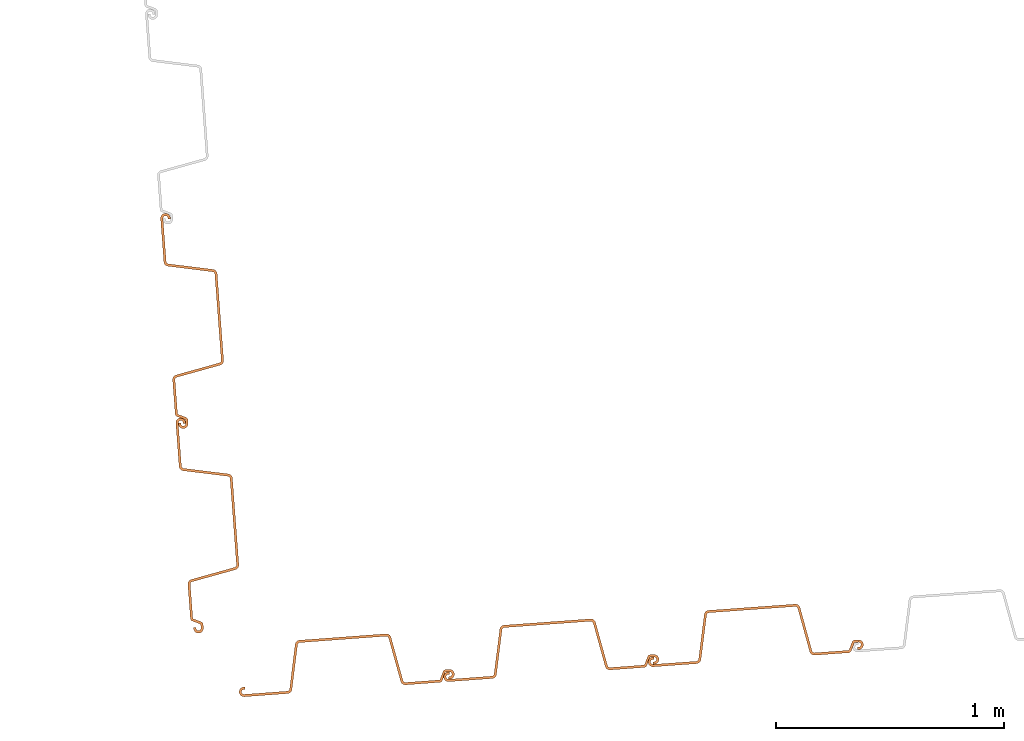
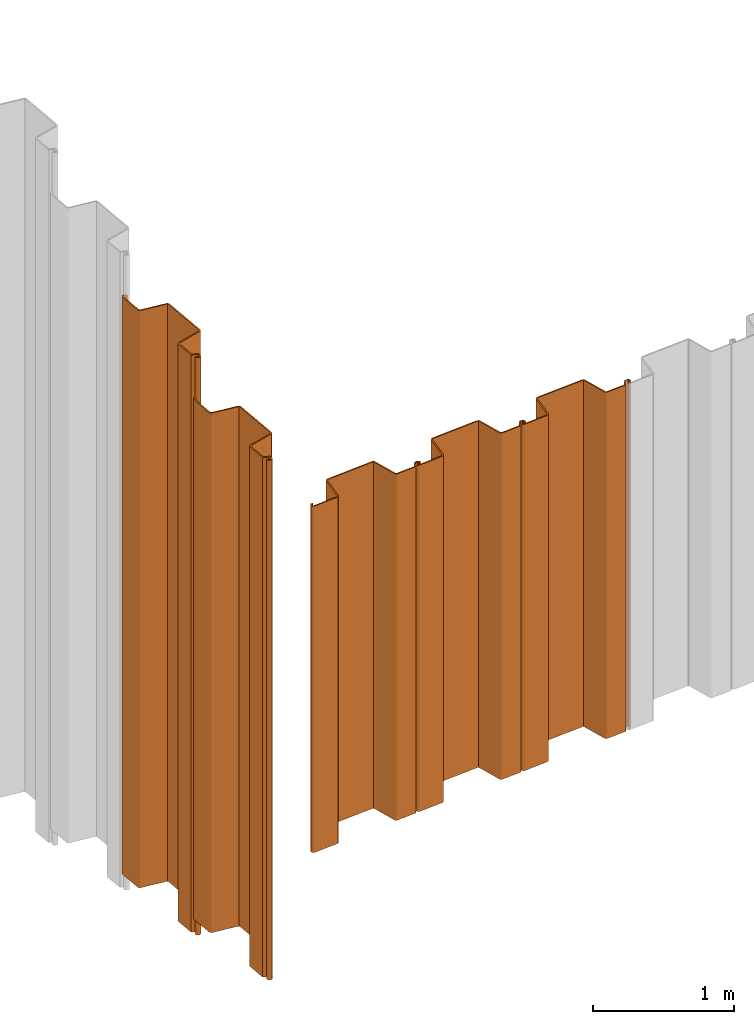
# One storey, part 1 of 12: 5 proxies.
"""IFC2X3 building model written with IfcOpenShell, lengths in millimetres."""

import ifcopenshell
import ifcopenshell.guid

model = None  # the IFC model being written
_history = None  # IfcOwnerHistory: only IFC2X3 demands one
_inside = {}  # id of a spatial element -> (the spatial element, [elements in it])
_under = {}  # id of a project, library or spatial element -> (it, [spatial elements below it])
_declared = {}  # id of a project -> (the project, [libraries it declares])
_typed = {}  # id of a type object -> (the type object, [elements of that type])
_made_of = {}  # id of a material, layer set ... -> (it, [elements and type objects made of it])


def new_model(schema):
    """Start an empty IFC model of exactly this schema.

    Asked for "IFC4X3", IfcOpenShell would pick the latest addendum, in which some entities
    have other attributes; the version numbers below select the first issue.
    IFC2X3 requires an IfcOwnerHistory on every rooted entity: one is made here for all.
    """
    global model, _history
    if schema == "IFC4X3":
        model = ifcopenshell.file(schema_version=(4, 3, 0, 0))
    else:
        model = ifcopenshell.file(schema=schema)
    _inside.clear()
    _under.clear()
    _declared.clear()
    _typed.clear()
    _made_of.clear()
    _history = None
    if model.schema == "IFC2X3":
        org = make("IfcOrganization", Name="unknown")
        user = make(
            "IfcPersonAndOrganization",
            ThePerson=make("IfcPerson", FamilyName="unknown"),
            TheOrganization=org,
        )
        app = make(
            "IfcApplication",
            ApplicationDeveloper=org,
            Version="unknown",
            ApplicationFullName="unknown",
            ApplicationIdentifier="unknown",
        )
        _history = make(
            "IfcOwnerHistory",
            OwningUser=user,
            OwningApplication=app,
            ChangeAction="ADDED",
            CreationDate=0,
        )
    return model


def make(cls, **values):
    """One entity of the class cls with the attributes given. An attribute that is None is left unset."""
    return model.create_entity(
        cls, **{name: value for name, value in values.items() if value is not None}
    )


def entity(cls, *values):
    """Any entity or typed value of the class cls, its attributes in the order of the schema. None: left unset."""
    e = model.create_entity(cls)
    for i, value in enumerate(values):
        if value is not None:
            e[i] = value
    return e


def rooted(cls, **values):
    """An entity with a GlobalId (a new one), such as an element, a storey or a relation."""
    return make(cls, GlobalId=ifcopenshell.guid.new(), OwnerHistory=_history, **values)


def si_unit(unit_type, name, prefix=None):
    """IfcSIUnit, for example si_unit("LENGTHUNIT", "METRE", prefix="MILLI")."""
    return make("IfcSIUnit", UnitType=unit_type, Prefix=prefix, Name=name)


def converted_unit(unit_type, name, factor, base, dimensions=None, offset=None):
    """IfcConversionBasedUnit, such as the inch: factor (a typed value) times the base unit."""
    return make(
        "IfcConversionBasedUnit"
        if offset is None
        else "IfcConversionBasedUnitWithOffset",
        ConversionOffset=offset,
        Dimensions=None
        if dimensions is None
        else entity("IfcDimensionalExponents", *dimensions),
        UnitType=unit_type,
        Name=name,
        ConversionFactor=make(
            "IfcMeasureWithUnit", ValueComponent=factor, UnitComponent=base
        ),
    )


def derived_unit(unit_type, elements):
    """IfcDerivedUnit: a product of units, each with its exponent."""
    return make(
        "IfcDerivedUnit",
        Elements=[
            make("IfcDerivedUnitElement", Unit=unit, Exponent=power)
            for unit, power in elements
        ],
        UnitType=unit_type,
    )


def assignment(units):
    """IfcUnitAssignment: the units of a project."""
    return None if units is None else make("IfcUnitAssignment", Units=units)


def point(xyz):
    """IfcCartesianPoint."""
    return None if xyz is None else make("IfcCartesianPoint", Coordinates=xyz)


def direction(xyz):
    """IfcDirection."""
    return None if xyz is None else make("IfcDirection", DirectionRatios=xyz)


def frame(location, z_axis=None, x_axis=None):
    """IfcAxis2Placement3D, a coordinate frame: its origin and axes. An axis left out is left unset."""
    return make(
        "IfcAxis2Placement3D",
        Location=point(location),
        Axis=direction(z_axis),
        RefDirection=direction(x_axis),
    )


def frame_2d(location, x_axis=None):
    """IfcAxis2Placement2D, a coordinate frame in the plane: its origin and x axis."""
    return make(
        "IfcAxis2Placement2D", Location=point(location), RefDirection=direction(x_axis)
    )


def origin():
    """The frame at (0, 0, 0) with its axes left unset."""
    return frame((0.0, 0.0, 0.0))


def place(relative_to, where):
    """IfcLocalPlacement: puts the frame where relative to a parent placement (None: the world)."""
    return make(
        "IfcLocalPlacement", PlacementRelTo=relative_to, RelativePlacement=where
    )


def context(
    kind, dimensions, precision=None, world=None, true_north=None, identifier=None
):
    """IfcGeometricRepresentationContext, for example the 3D "Model" context."""
    return make(
        "IfcGeometricRepresentationContext",
        ContextIdentifier=identifier,
        ContextType=kind,
        CoordinateSpaceDimension=dimensions,
        Precision=precision,
        WorldCoordinateSystem=world,
        TrueNorth=true_north,
    )


def subcontext(parent, identifier, kind, view, scale=None):
    """IfcGeometricRepresentationSubContext, for example "Body" below "Model"."""
    return make(
        "IfcGeometricRepresentationSubContext",
        ContextIdentifier=identifier,
        ContextType=kind,
        ParentContext=parent,
        TargetScale=scale,
        TargetView=view,
    )


def project(units=None, contexts=None):
    """IfcProject with its units and contexts."""
    return rooted(
        "IfcProject",
        Name="project",
        RepresentationContexts=contexts,
        UnitsInContext=assignment(units),
    )


def spatial(cls, under=None, at=None, **own):
    """A site, building, storey or space (cls), placed at a placement, below another one or the project."""
    s = rooted(cls, ObjectPlacement=at, **own)
    if under is not None:
        _under.setdefault(under.id(), (under, []))[1].append(s)
    return s


def polyline(points):
    """IfcPolyline through the points."""
    return make("IfcPolyline", Points=[point(p) for p in points])


def circle_curve(where, radius):
    """IfcCircle in the frame where."""
    return make("IfcCircle", Position=where, Radius=radius)


def parameter(value):
    """IfcParameterValue: where a trimmed curve begins or ends, as a parameter of its basis curve."""
    return model.create_entity("IfcParameterValue", value)


def trimmed(basis, trim1, trim2, sense, master):
    """IfcTrimmedCurve: the piece of a basis curve between two trims."""
    return make(
        "IfcTrimmedCurve",
        BasisCurve=basis,
        Trim1=trim1,
        Trim2=trim2,
        SenseAgreement=sense,
        MasterRepresentation=master,
    )


def segment(curve, same_sense, transition):
    """IfcCompositeCurveSegment."""
    return make(
        "IfcCompositeCurveSegment",
        Transition=transition,
        SameSense=same_sense,
        ParentCurve=curve,
    )


def composite_curve(segments, self_intersect=None):
    """IfcCompositeCurve: segments joined end to end."""
    return make("IfcCompositeCurve", Segments=segments, SelfIntersect=self_intersect)


def outline(outer, holes=None, kind="AREA"):
    """IfcArbitraryClosedProfileDef: a profile drawn as a closed curve; with holes, ...WithVoids."""
    if holes is None:
        return make("IfcArbitraryClosedProfileDef", ProfileType=kind, OuterCurve=outer)
    return make(
        "IfcArbitraryProfileDefWithVoids",
        ProfileType=kind,
        OuterCurve=outer,
        InnerCurves=holes,
    )


def extrude(swept, where, along, depth):
    """IfcExtrudedAreaSolid: the profile swept, set in the frame where, extruded along a direction by depth."""
    return make(
        "IfcExtrudedAreaSolid",
        SweptArea=swept,
        Position=where,
        ExtrudedDirection=direction(along),
        Depth=depth,
    )


def shape(context_of_items, identifier, shape_type, items):
    """IfcShapeRepresentation: the items that make up one representation, for example the "Body"."""
    return make(
        "IfcShapeRepresentation",
        ContextOfItems=context_of_items,
        RepresentationIdentifier=identifier,
        RepresentationType=shape_type,
        Items=items,
    )


def source(mapping_origin, context_of_items, identifier, shape_type, items):
    """IfcRepresentationMap: a shape defined once, which mapped items show again and again."""
    return make(
        "IfcRepresentationMap",
        MappingOrigin=mapping_origin,
        MappedRepresentation=shape(context_of_items, identifier, shape_type, items),
    )


def transform(
    local_origin,
    x_axis=None,
    y_axis=None,
    z_axis=None,
    scale=None,
    scale2=None,
    scale3=None,
    uniform=True,
):
    """IfcCartesianTransformationOperator3D, or its non-uniform kind. x_axis, y_axis, z_axis: its Axis1, 2, 3."""
    if uniform:
        return make(
            "IfcCartesianTransformationOperator3D",
            Axis1=direction(x_axis),
            Axis2=direction(y_axis),
            LocalOrigin=point(local_origin),
            Scale=scale,
            Axis3=direction(z_axis),
        )
    return make(
        "IfcCartesianTransformationOperator3DnonUniform",
        Axis1=direction(x_axis),
        Axis2=direction(y_axis),
        LocalOrigin=point(local_origin),
        Scale=scale,
        Axis3=direction(z_axis),
        Scale2=scale2,
        Scale3=scale3,
    )


def mapped(mapping_source, mapping_target):
    """IfcMappedItem: shows the shape of a source again, moved by a transform."""
    return make(
        "IfcMappedItem", MappingSource=mapping_source, MappingTarget=mapping_target
    )


def material(Name=None, Category=None):
    """IfcMaterial."""
    return make("IfcMaterial", Name=Name, Category=Category)


def made_of(thing, what):
    """Note that an element or type object is made of a material, layer set ...; save() writes the relation."""
    if what is not None:
        _made_of.setdefault(what.id(), (what, []))[1].append(thing)
    return thing


def type_object(cls, material=None, **own):
    """A type object (cls), such as IfcWallType, which elements share."""
    return made_of(rooted(cls, **own), material)


def type_shapes(of_type, sources):
    """Give a type object the sources (RepresentationMaps) that its elements show as mapped items."""
    of_type.RepresentationMaps = sources


def element(
    cls,
    number,
    at=None,
    inside=None,
    cuts=None,
    type_object=None,
    material=None,
    context=None,
    identifier="Body",
    shape_type=None,
    held_by="IfcProductDefinitionShape",
    body=None,
    shapes=None,
    **own,
):
    """One element of the class cls, such as IfcWall. Its Tag is "e" and its number.

    at: its placement. inside: the storey or other place that contains it. cuts: it is an
    opening in that element (IfcRelVoidsElement). A single representation is given by context,
    identifier, shape_type and body (its items); several are given by shapes. held_by: the class
    of the entity that holds the representations. save() writes the other relations.
    """
    e = rooted(cls, Tag="e%d" % number, ObjectPlacement=at, **own)
    if body is not None:
        shapes = [shape(context, identifier, shape_type, body)]
    if shapes is not None:
        e.Representation = make(held_by, Representations=shapes)
    if inside is not None:
        _inside.setdefault(inside.id(), (inside, []))[1].append(e)
    if cuts is not None:
        rooted(
            "IfcRelVoidsElement", RelatingBuildingElement=cuts, RelatedOpeningElement=e
        )
    if type_object is not None:
        _typed.setdefault(type_object.id(), (type_object, []))[1].append(e)
    return made_of(e, material)


def aggregate(whole, parts):
    """IfcRelAggregates: a whole, such as a stair, and the parts it consists of."""
    return rooted("IfcRelAggregates", RelatingObject=whole, RelatedObjects=parts)


def save(model, path):
    """Write the relations noted so far, then the file.

    IfcRelAggregates (storeys below a building ...), IfcRelContainedInSpatialStructure (elements
    in a storey), IfcRelDefinesByType, IfcRelAssociatesMaterial and IfcRelDeclares: one each for
    every whole, place, type object, material and project.
    """
    for whole, parts in _under.values():
        aggregate(whole, parts)
    for where, things in _inside.values():
        rooted(
            "IfcRelContainedInSpatialStructure",
            RelatedElements=things,
            RelatingStructure=where,
        )
    for kind, things in _typed.values():
        rooted("IfcRelDefinesByType", RelatedObjects=things, RelatingType=kind)
    for what, things in _made_of.values():
        rooted("IfcRelAssociatesMaterial", RelatedObjects=things, RelatingMaterial=what)
    for by, libraries in _declared.values():
        rooted("IfcRelDeclares", RelatingContext=by, RelatedDefinitions=libraries)
    model.write(path)


model = new_model("IFC2X3")

# Units and contexts
model_context = context("Model", 3, precision=0.01, world=origin(), true_north=direction((6.12303176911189e-17, 1.0)))
body_context = subcontext(model_context, "Body", "Model", "MODEL_VIEW")
ifc_project = project(units=[si_unit("LENGTHUNIT", "METRE", prefix="MILLI"), si_unit("AREAUNIT", "SQUARE_METRE"), si_unit("VOLUMEUNIT", "CUBIC_METRE"), converted_unit("PLANEANGLEUNIT", "DEGREE", entity("IfcRatioMeasure", 0.0174532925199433), si_unit("PLANEANGLEUNIT", "RADIAN"), dimensions=[0, 0, 0, 0, 0, 0, 0]), si_unit("MASSUNIT", "GRAM", prefix="KILO"), derived_unit("MASSDENSITYUNIT", [(si_unit("MASSUNIT", "GRAM", prefix="KILO"), 1), (si_unit("LENGTHUNIT", "METRE"), -3)]), derived_unit("MOMENTOFINERTIAUNIT", [(si_unit("LENGTHUNIT", "METRE"), 4)]), si_unit("TIMEUNIT", "SECOND"), si_unit("FREQUENCYUNIT", "HERTZ"), si_unit("THERMODYNAMICTEMPERATUREUNIT", "DEGREE_CELSIUS"), derived_unit("THERMALTRANSMITTANCEUNIT", [(si_unit("MASSUNIT", "GRAM", prefix="KILO"), 1), (si_unit("THERMODYNAMICTEMPERATUREUNIT", "KELVIN"), -1), (si_unit("TIMEUNIT", "SECOND"), -3)]), derived_unit("VOLUMETRICFLOWRATEUNIT", [(si_unit("LENGTHUNIT", "METRE"), 3), (si_unit("TIMEUNIT", "SECOND"), -1)]), si_unit("ELECTRICCURRENTUNIT", "AMPERE"), si_unit("ELECTRICVOLTAGEUNIT", "VOLT"), si_unit("POWERUNIT", "WATT"), si_unit("FORCEUNIT", "NEWTON", prefix="KILO"), si_unit("ILLUMINANCEUNIT", "LUX"), si_unit("LUMINOUSFLUXUNIT", "LUMEN"), si_unit("LUMINOUSINTENSITYUNIT", "CANDELA"), derived_unit("USERDEFINED", [(si_unit("MASSUNIT", "GRAM", prefix="KILO"), -1), (si_unit("LENGTHUNIT", "METRE"), -2), (si_unit("TIMEUNIT", "SECOND"), 3), (si_unit("LUMINOUSFLUXUNIT", "LUMEN"), 1)]), derived_unit("LINEARVELOCITYUNIT", [(si_unit("LENGTHUNIT", "METRE"), 1), (si_unit("TIMEUNIT", "SECOND"), -1)]), si_unit("PRESSUREUNIT", "PASCAL"), derived_unit("USERDEFINED", [(si_unit("LENGTHUNIT", "METRE"), -2), (si_unit("MASSUNIT", "GRAM", prefix="KILO"), 1), (si_unit("TIMEUNIT", "SECOND"), -2)]), derived_unit("LINEARFORCEUNIT", [(si_unit("MASSUNIT", "GRAM", prefix="KILO"), 1), (si_unit("LENGTHUNIT", "METRE"), 1), (si_unit("TIMEUNIT", "SECOND"), -2), (si_unit("LENGTHUNIT", "METRE"), -1)]), derived_unit("PLANARFORCEUNIT", [(si_unit("MASSUNIT", "GRAM", prefix="KILO"), 1), (si_unit("LENGTHUNIT", "METRE"), 1), (si_unit("TIMEUNIT", "SECOND"), -2), (si_unit("LENGTHUNIT", "METRE"), -2)])], contexts=[model_context])

# Site, building, storey
site_placement = place(None, origin())
site = spatial("IfcSite", under=ifc_project, at=site_placement, Name="Default", CompositionType="ELEMENT")
building_placement = place(site_placement, origin())
building = spatial("IfcBuilding", under=site, at=building_placement, CompositionType="ELEMENT")
storey_placement = place(building_placement, frame((0.0, 0.0, 10600.0)))
storey = spatial("IfcBuildingStorey", under=building, at=storey_placement, Name="AP+10.600", CompositionType="ELEMENT", Elevation=10600.0)

# Proxies
ifc_material = material(Name="<Unnamed>")
building_element_proxy_type_1 = type_object("IfcBuildingElementProxyType", Name="鋼矢板10H型:鋼矢板10H型", PredefinedType="NOTDEFINED", material=ifc_material)
shared_shape_1 = source(origin(), body_context, "Body", "SweptSolid", [
    extrude(outline(composite_curve([segment(trimmed(circle_curve(frame_2d((85.3662976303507, 306.644432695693), x_axis=(0.422618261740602, 0.906307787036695)), 13.885714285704), [parameter(24.9999999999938)], [parameter(90.0000000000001)], True, "PARAMETER"), True, "CONTINUOUS"), segment(polyline([(72.7815666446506, 312.512789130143), (9.8129512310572, 177.476157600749)]), True, "CONTINUOUS"), segment(trimmed(circle_curve(frame_2d((29.3891994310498, 168.347603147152), x_axis=(0.422618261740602, 0.906307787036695)), 21.6), [parameter(90.0000000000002)], [parameter(168.69006752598)], True, "PARAMETER"), True, "CONTINUOUS"), segment(polyline([(16.598697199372, 150.941769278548), (175.329723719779, 34.2998683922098)]), True, "CONTINUOUS"), segment(trimmed(circle_curve(frame_2d((168.93447260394, 25.596951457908), x_axis=(0.422618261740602, 0.906307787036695)), 10.7999999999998), [parameter(270.0)], [parameter(348.690067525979)], True, "PARAMETER"), False, "CONTINUOUS"), segment(polyline([(178.722596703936, 21.0326742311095), (18.2974003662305, -323.000269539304)]), True, "CONTINUOUS"), segment(trimmed(circle_curve(frame_2d((8.50927626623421, -318.435992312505), x_axis=(0.422618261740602, 0.906307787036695)), 10.8), [parameter(191.30993247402)], [parameter(269.999999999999)], True, "PARAMETER"), False, "CONTINUOUS"), segment(polyline([(5.95324328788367, -328.929166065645), (-185.429973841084, -282.310113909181)]), True, "CONTINUOUS"), segment(trimmed(circle_curve(frame_2d((-190.542039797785, -303.296461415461), x_axis=(0.422618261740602, 0.906307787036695)), 21.6000000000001), [parameter(11.3099324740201)], [parameter(90.0000000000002)], True, "PARAMETER"), True, "CONTINUOUS"), segment(polyline([(-210.118287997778, -294.167906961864), (-290.330886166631, -466.184378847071)]), True, "CONTINUOUS"), segment(trimmed(circle_curve(frame_2d((-270.754637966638, -475.312933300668), x_axis=(0.422618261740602, 0.906307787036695)), 21.6), [parameter(90.0000000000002)], [parameter(269.999999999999)], True, "PARAMETER"), True, "CONTINUOUS"), segment(polyline([(-251.178389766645, -484.441487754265), (-249.065298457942, -479.909948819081)]), True, "CONTINUOUS"), segment(polyline([(-249.065298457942, -479.909948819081), (-258.853422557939, -475.345671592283)]), True, "CONTINUOUS"), segment(polyline([(-258.853422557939, -475.345671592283), (-260.966513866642, -479.877210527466)]), True, "CONTINUOUS"), segment(trimmed(circle_curve(frame_2d((-270.754637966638, -475.312933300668), x_axis=(0.422618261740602, 0.906307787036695)), 10.8), [parameter(90.0000000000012)], [parameter(270.0)], True, "PARAMETER"), False, "CONTINUOUS"), segment(polyline([(-280.542762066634, -470.748656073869), (-200.330163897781, -298.732184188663)]), True, "CONTINUOUS"), segment(trimmed(circle_curve(frame_2d((-190.542039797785, -303.296461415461), x_axis=(0.422618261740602, 0.906307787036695)), 10.8), [parameter(11.3099324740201)], [parameter(89.9999999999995)], True, "PARAMETER"), False, "CONTINUOUS"), segment(polyline([(-187.986006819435, -292.803287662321), (3.39721030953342, -339.422339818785)]), True, "CONTINUOUS"), segment(trimmed(circle_curve(frame_2d((8.50927626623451, -318.435992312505), x_axis=(0.422618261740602, 0.906307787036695)), 21.6), [parameter(191.30993247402)], [parameter(270.0)], True, "PARAMETER"), True, "CONTINUOUS"), segment(polyline([(28.0855244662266, -327.564546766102), (188.510720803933, 16.4683970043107)]), True, "CONTINUOUS"), segment(trimmed(circle_curve(frame_2d((168.93447260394, 25.5969514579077), x_axis=(0.422618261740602, 0.906307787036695)), 21.6), [parameter(270.0)], [parameter(348.69006752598)], True, "PARAMETER"), True, "CONTINUOUS"), segment(polyline([(181.724974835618, 43.0027853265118), (22.9939483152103, 159.644686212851)]), True, "CONTINUOUS"), segment(trimmed(circle_curve(frame_2d((29.3891994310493, 168.347603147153), x_axis=(0.422618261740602, 0.906307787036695)), 10.7999999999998), [parameter(89.9999999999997)], [parameter(168.690067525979)], True, "PARAMETER"), False, "CONTINUOUS"), segment(polyline([(19.6010753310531, 172.911880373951), (82.5696907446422, 307.948511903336)]), True, "CONTINUOUS"), segment(trimmed(circle_curve(frame_2d((85.3662976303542, 306.64443269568), x_axis=(0.422618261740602, 0.906307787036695)), 3.08571428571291), [parameter(25.0000000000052)], [parameter(90.0000000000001)], True, "PARAMETER"), False, "CONTINUOUS"), segment(polyline([(85.3662976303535, 309.730146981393), (122.220231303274, 309.730146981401)]), True, "CONTINUOUS"), segment(trimmed(circle_curve(frame_2d((122.220231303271, 323.615861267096), x_axis=(0.422618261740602, 0.906307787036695)), 13.8857142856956), [parameter(205.000000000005)], [parameter(270.0)], True, "PARAMETER"), True, "CONTINUOUS"), segment(polyline([(134.804962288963, 317.747504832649), (141.079261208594, 331.202782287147)]), True, "CONTINUOUS"), segment(trimmed(circle_curve(frame_2d((121.503013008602, 340.331336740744), x_axis=(0.422618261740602, 0.906307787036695)), 21.6), [parameter(270.0)], [parameter(90.0000000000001)], True, "PARAMETER"), True, "CONTINUOUS"), segment(polyline([(101.926764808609, 349.459891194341), (99.8136734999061, 344.928352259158)]), True, "CONTINUOUS"), segment(polyline([(99.8136734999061, 344.928352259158), (109.601797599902, 340.364075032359)]), True, "CONTINUOUS"), segment(polyline([(109.601797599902, 340.364075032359), (111.714888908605, 344.895613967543)]), True, "CONTINUOUS"), segment(trimmed(circle_curve(frame_2d((121.503013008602, 340.331336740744), x_axis=(0.422618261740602, 0.906307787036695)), 10.8), [parameter(270.0)], [parameter(89.9999999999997)], True, "PARAMETER"), False, "CONTINUOUS"), segment(polyline([(131.291137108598, 335.767059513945), (125.01683818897, 322.311782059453)]), True, "CONTINUOUS"), segment(trimmed(circle_curve(frame_2d((122.220231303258, 323.615861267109), x_axis=(0.422618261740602, 0.906307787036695)), 3.08571428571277), [parameter(204.999999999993)], [parameter(270.0)], True, "PARAMETER"), False, "CONTINUOUS"), segment(polyline([(122.220231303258, 320.530146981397), (85.3662976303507, 320.530146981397)]), True, "CONTINUOUS")], self_intersect=False)), frame((95.205667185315, -48.8888888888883, -3000.0), z_axis=(0.0, 0.0, -1.0), x_axis=(0.4226182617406, 0.906307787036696, 0.0)), (0.0, 0.0, -1.0), 3000.0),
])
type_shapes(building_element_proxy_type_1, [shared_shape_1])
for number, where, z_axis, x_axis in (
    (1, (-86202.3274578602, -17983.886758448, -650.0), (0.0, 0.0, 1.0), (0.997426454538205, 0.0716970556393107, 0.0)),
    (2, (-87099.9808708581, -18048.8243395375, -650.0), (0.0, 0.0, 1.0), (0.997360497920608, 0.0726087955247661, 0.0)),
    (3, (-87997.5746948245, -18114.582469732, -650.0), (0.0, 0.0, 1.0), (0.997293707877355, 0.0735204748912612, 0.0)),
):
    element("IfcBuildingElementProxy", number, at=place(storey_placement, frame(where, z_axis=z_axis, x_axis=x_axis)), inside=storey, type_object=building_element_proxy_type_1, material=ifc_material, Name="鋼矢板10H型:鋼矢板10H型", ObjectType="鋼矢板10H型:鋼矢板10H型", context=body_context, shape_type="MappedRepresentation", body=[
        mapped(shared_shape_1, transform((0.0, 0.0, 0.0), scale=1.0)),
    ])
building_element_proxy_type_2 = type_object("IfcBuildingElementProxyType", Name="鋼矢板10H型:鋼矢板10H型", PredefinedType="NOTDEFINED", material=ifc_material)
shared_shape_2 = source(origin(), body_context, "Body", "SweptSolid", [
    extrude(outline(composite_curve([segment(trimmed(circle_curve(frame_2d((85.3662976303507, 306.644432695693), x_axis=(0.422618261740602, 0.906307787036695)), 13.885714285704), [parameter(24.9999999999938)], [parameter(90.0000000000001)], True, "PARAMETER"), True, "CONTINUOUS"), segment(polyline([(72.7815666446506, 312.512789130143), (9.8129512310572, 177.476157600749)]), True, "CONTINUOUS"), segment(trimmed(circle_curve(frame_2d((29.3891994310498, 168.347603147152), x_axis=(0.422618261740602, 0.906307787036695)), 21.6), [parameter(90.0000000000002)], [parameter(168.69006752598)], True, "PARAMETER"), True, "CONTINUOUS"), segment(polyline([(16.598697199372, 150.941769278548), (175.329723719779, 34.2998683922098)]), True, "CONTINUOUS"), segment(trimmed(circle_curve(frame_2d((168.93447260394, 25.596951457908), x_axis=(0.422618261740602, 0.906307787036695)), 10.7999999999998), [parameter(270.0)], [parameter(348.690067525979)], True, "PARAMETER"), False, "CONTINUOUS"), segment(polyline([(178.722596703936, 21.0326742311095), (18.2974003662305, -323.000269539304)]), True, "CONTINUOUS"), segment(trimmed(circle_curve(frame_2d((8.50927626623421, -318.435992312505), x_axis=(0.422618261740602, 0.906307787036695)), 10.8), [parameter(191.30993247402)], [parameter(269.999999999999)], True, "PARAMETER"), False, "CONTINUOUS"), segment(polyline([(5.95324328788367, -328.929166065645), (-185.429973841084, -282.310113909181)]), True, "CONTINUOUS"), segment(trimmed(circle_curve(frame_2d((-190.542039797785, -303.296461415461), x_axis=(0.422618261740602, 0.906307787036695)), 21.6000000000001), [parameter(11.3099324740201)], [parameter(90.0000000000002)], True, "PARAMETER"), True, "CONTINUOUS"), segment(polyline([(-210.118287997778, -294.167906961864), (-290.330886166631, -466.184378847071)]), True, "CONTINUOUS"), segment(trimmed(circle_curve(frame_2d((-270.754637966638, -475.312933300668), x_axis=(0.422618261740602, 0.906307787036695)), 21.6), [parameter(90.0000000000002)], [parameter(269.999999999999)], True, "PARAMETER"), True, "CONTINUOUS"), segment(polyline([(-251.178389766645, -484.441487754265), (-249.065298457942, -479.909948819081)]), True, "CONTINUOUS"), segment(polyline([(-249.065298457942, -479.909948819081), (-258.853422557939, -475.345671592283)]), True, "CONTINUOUS"), segment(polyline([(-258.853422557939, -475.345671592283), (-260.966513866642, -479.877210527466)]), True, "CONTINUOUS"), segment(trimmed(circle_curve(frame_2d((-270.754637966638, -475.312933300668), x_axis=(0.422618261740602, 0.906307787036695)), 10.8), [parameter(90.0000000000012)], [parameter(270.0)], True, "PARAMETER"), False, "CONTINUOUS"), segment(polyline([(-280.542762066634, -470.748656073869), (-200.330163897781, -298.732184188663)]), True, "CONTINUOUS"), segment(trimmed(circle_curve(frame_2d((-190.542039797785, -303.296461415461), x_axis=(0.422618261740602, 0.906307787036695)), 10.8), [parameter(11.3099324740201)], [parameter(89.9999999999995)], True, "PARAMETER"), False, "CONTINUOUS"), segment(polyline([(-187.986006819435, -292.803287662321), (3.39721030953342, -339.422339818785)]), True, "CONTINUOUS"), segment(trimmed(circle_curve(frame_2d((8.50927626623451, -318.435992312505), x_axis=(0.422618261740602, 0.906307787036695)), 21.6), [parameter(191.30993247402)], [parameter(270.0)], True, "PARAMETER"), True, "CONTINUOUS"), segment(polyline([(28.0855244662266, -327.564546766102), (188.510720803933, 16.4683970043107)]), True, "CONTINUOUS"), segment(trimmed(circle_curve(frame_2d((168.93447260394, 25.5969514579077), x_axis=(0.422618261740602, 0.906307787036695)), 21.6), [parameter(270.0)], [parameter(348.69006752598)], True, "PARAMETER"), True, "CONTINUOUS"), segment(polyline([(181.724974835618, 43.0027853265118), (22.9939483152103, 159.644686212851)]), True, "CONTINUOUS"), segment(trimmed(circle_curve(frame_2d((29.3891994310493, 168.347603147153), x_axis=(0.422618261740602, 0.906307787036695)), 10.7999999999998), [parameter(89.9999999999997)], [parameter(168.690067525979)], True, "PARAMETER"), False, "CONTINUOUS"), segment(polyline([(19.6010753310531, 172.911880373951), (82.5696907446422, 307.948511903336)]), True, "CONTINUOUS"), segment(trimmed(circle_curve(frame_2d((85.3662976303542, 306.64443269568), x_axis=(0.422618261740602, 0.906307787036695)), 3.08571428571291), [parameter(25.0000000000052)], [parameter(90.0000000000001)], True, "PARAMETER"), False, "CONTINUOUS"), segment(polyline([(85.3662976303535, 309.730146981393), (122.220231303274, 309.730146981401)]), True, "CONTINUOUS"), segment(trimmed(circle_curve(frame_2d((122.220231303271, 323.615861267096), x_axis=(0.422618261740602, 0.906307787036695)), 13.8857142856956), [parameter(205.000000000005)], [parameter(270.0)], True, "PARAMETER"), True, "CONTINUOUS"), segment(polyline([(134.804962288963, 317.747504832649), (141.079261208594, 331.202782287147)]), True, "CONTINUOUS"), segment(trimmed(circle_curve(frame_2d((121.503013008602, 340.331336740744), x_axis=(0.422618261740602, 0.906307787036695)), 21.6), [parameter(270.0)], [parameter(90.0000000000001)], True, "PARAMETER"), True, "CONTINUOUS"), segment(polyline([(101.926764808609, 349.459891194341), (99.8136734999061, 344.928352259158)]), True, "CONTINUOUS"), segment(polyline([(99.8136734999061, 344.928352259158), (109.601797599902, 340.364075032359)]), True, "CONTINUOUS"), segment(polyline([(109.601797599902, 340.364075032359), (111.714888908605, 344.895613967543)]), True, "CONTINUOUS"), segment(trimmed(circle_curve(frame_2d((121.503013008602, 340.331336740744), x_axis=(0.422618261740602, 0.906307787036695)), 10.8), [parameter(270.0)], [parameter(89.9999999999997)], True, "PARAMETER"), False, "CONTINUOUS"), segment(polyline([(131.291137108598, 335.767059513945), (125.01683818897, 322.311782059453)]), True, "CONTINUOUS"), segment(trimmed(circle_curve(frame_2d((122.220231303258, 323.615861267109), x_axis=(0.422618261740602, 0.906307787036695)), 3.08571428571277), [parameter(204.999999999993)], [parameter(270.0)], True, "PARAMETER"), False, "CONTINUOUS"), segment(polyline([(122.220231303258, 320.530146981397), (85.3662976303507, 320.530146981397)]), True, "CONTINUOUS")], self_intersect=False)), frame((95.205667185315, -48.8888888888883, -4500.0), z_axis=(0.0, 0.0, -1.0), x_axis=(0.4226182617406, 0.906307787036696, 0.0)), (0.0, 0.0, -1.0), 4500.0),
])
type_shapes(building_element_proxy_type_2, [shared_shape_2])
proxy_1_placement = place(storey_placement, frame((-88590.7740043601, -17501.5840955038, -352.722315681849), z_axis=(0.0, 0.0, 1.0), x_axis=(0.0743258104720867, -0.997234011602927, 0.0)))
element("IfcBuildingElementProxy", 4, at=proxy_1_placement, inside=storey, type_object=building_element_proxy_type_2, material=ifc_material, Name="鋼矢板10H型:鋼矢板10H型", ObjectType="鋼矢板10H型:鋼矢板10H型", context=body_context, shape_type="MappedRepresentation", body=[
    mapped(shared_shape_2, transform((0.0, 0.0, 0.0), scale=1.0)),
])
building_element_proxy_type_3 = type_object("IfcBuildingElementProxyType", Name="鋼矢板10H型:鋼矢板10H型", PredefinedType="NOTDEFINED", material=ifc_material)
shared_shape_3 = source(origin(), body_context, "Body", "SweptSolid", [
    extrude(outline(composite_curve([segment(trimmed(circle_curve(frame_2d((85.3662976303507, 306.644432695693), x_axis=(0.422618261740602, 0.906307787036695)), 13.885714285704), [parameter(24.9999999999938)], [parameter(90.0000000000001)], True, "PARAMETER"), True, "CONTINUOUS"), segment(polyline([(72.7815666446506, 312.512789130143), (9.8129512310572, 177.476157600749)]), True, "CONTINUOUS"), segment(trimmed(circle_curve(frame_2d((29.3891994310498, 168.347603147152), x_axis=(0.422618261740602, 0.906307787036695)), 21.6), [parameter(90.0000000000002)], [parameter(168.69006752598)], True, "PARAMETER"), True, "CONTINUOUS"), segment(polyline([(16.598697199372, 150.941769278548), (175.329723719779, 34.2998683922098)]), True, "CONTINUOUS"), segment(trimmed(circle_curve(frame_2d((168.93447260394, 25.596951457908), x_axis=(0.422618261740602, 0.906307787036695)), 10.7999999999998), [parameter(270.0)], [parameter(348.690067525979)], True, "PARAMETER"), False, "CONTINUOUS"), segment(polyline([(178.722596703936, 21.0326742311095), (18.2974003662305, -323.000269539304)]), True, "CONTINUOUS"), segment(trimmed(circle_curve(frame_2d((8.50927626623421, -318.435992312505), x_axis=(0.422618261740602, 0.906307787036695)), 10.8), [parameter(191.30993247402)], [parameter(269.999999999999)], True, "PARAMETER"), False, "CONTINUOUS"), segment(polyline([(5.95324328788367, -328.929166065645), (-185.429973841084, -282.310113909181)]), True, "CONTINUOUS"), segment(trimmed(circle_curve(frame_2d((-190.542039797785, -303.296461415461), x_axis=(0.422618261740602, 0.906307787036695)), 21.6000000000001), [parameter(11.3099324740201)], [parameter(90.0000000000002)], True, "PARAMETER"), True, "CONTINUOUS"), segment(polyline([(-210.118287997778, -294.167906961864), (-290.330886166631, -466.184378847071)]), True, "CONTINUOUS"), segment(trimmed(circle_curve(frame_2d((-270.754637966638, -475.312933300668), x_axis=(0.422618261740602, 0.906307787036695)), 21.6), [parameter(90.0000000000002)], [parameter(269.999999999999)], True, "PARAMETER"), True, "CONTINUOUS"), segment(polyline([(-251.178389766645, -484.441487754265), (-249.065298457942, -479.909948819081)]), True, "CONTINUOUS"), segment(polyline([(-249.065298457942, -479.909948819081), (-258.853422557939, -475.345671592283)]), True, "CONTINUOUS"), segment(polyline([(-258.853422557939, -475.345671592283), (-260.966513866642, -479.877210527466)]), True, "CONTINUOUS"), segment(trimmed(circle_curve(frame_2d((-270.754637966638, -475.312933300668), x_axis=(0.422618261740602, 0.906307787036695)), 10.8), [parameter(90.0000000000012)], [parameter(270.0)], True, "PARAMETER"), False, "CONTINUOUS"), segment(polyline([(-280.542762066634, -470.748656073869), (-200.330163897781, -298.732184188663)]), True, "CONTINUOUS"), segment(trimmed(circle_curve(frame_2d((-190.542039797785, -303.296461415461), x_axis=(0.422618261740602, 0.906307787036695)), 10.8), [parameter(11.3099324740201)], [parameter(89.9999999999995)], True, "PARAMETER"), False, "CONTINUOUS"), segment(polyline([(-187.986006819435, -292.803287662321), (3.39721030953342, -339.422339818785)]), True, "CONTINUOUS"), segment(trimmed(circle_curve(frame_2d((8.50927626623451, -318.435992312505), x_axis=(0.422618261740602, 0.906307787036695)), 21.6), [parameter(191.30993247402)], [parameter(270.0)], True, "PARAMETER"), True, "CONTINUOUS"), segment(polyline([(28.0855244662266, -327.564546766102), (188.510720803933, 16.4683970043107)]), True, "CONTINUOUS"), segment(trimmed(circle_curve(frame_2d((168.93447260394, 25.5969514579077), x_axis=(0.422618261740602, 0.906307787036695)), 21.6), [parameter(270.0)], [parameter(348.69006752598)], True, "PARAMETER"), True, "CONTINUOUS"), segment(polyline([(181.724974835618, 43.0027853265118), (22.9939483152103, 159.644686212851)]), True, "CONTINUOUS"), segment(trimmed(circle_curve(frame_2d((29.3891994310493, 168.347603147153), x_axis=(0.422618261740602, 0.906307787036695)), 10.7999999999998), [parameter(89.9999999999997)], [parameter(168.690067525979)], True, "PARAMETER"), False, "CONTINUOUS"), segment(polyline([(19.6010753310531, 172.911880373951), (82.5696907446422, 307.948511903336)]), True, "CONTINUOUS"), segment(trimmed(circle_curve(frame_2d((85.3662976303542, 306.64443269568), x_axis=(0.422618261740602, 0.906307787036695)), 3.08571428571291), [parameter(25.0000000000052)], [parameter(90.0000000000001)], True, "PARAMETER"), False, "CONTINUOUS"), segment(polyline([(85.3662976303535, 309.730146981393), (122.220231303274, 309.730146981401)]), True, "CONTINUOUS"), segment(trimmed(circle_curve(frame_2d((122.220231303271, 323.615861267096), x_axis=(0.422618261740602, 0.906307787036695)), 13.8857142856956), [parameter(205.000000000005)], [parameter(270.0)], True, "PARAMETER"), True, "CONTINUOUS"), segment(polyline([(134.804962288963, 317.747504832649), (141.079261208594, 331.202782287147)]), True, "CONTINUOUS"), segment(trimmed(circle_curve(frame_2d((121.503013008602, 340.331336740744), x_axis=(0.422618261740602, 0.906307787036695)), 21.6), [parameter(270.0)], [parameter(90.0000000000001)], True, "PARAMETER"), True, "CONTINUOUS"), segment(polyline([(101.926764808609, 349.459891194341), (99.8136734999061, 344.928352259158)]), True, "CONTINUOUS"), segment(polyline([(99.8136734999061, 344.928352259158), (109.601797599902, 340.364075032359)]), True, "CONTINUOUS"), segment(polyline([(109.601797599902, 340.364075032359), (111.714888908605, 344.895613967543)]), True, "CONTINUOUS"), segment(trimmed(circle_curve(frame_2d((121.503013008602, 340.331336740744), x_axis=(0.422618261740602, 0.906307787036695)), 10.8), [parameter(270.0)], [parameter(89.9999999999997)], True, "PARAMETER"), False, "CONTINUOUS"), segment(polyline([(131.291137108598, 335.767059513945), (125.01683818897, 322.311782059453)]), True, "CONTINUOUS"), segment(trimmed(circle_curve(frame_2d((122.220231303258, 323.615861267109), x_axis=(0.422618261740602, 0.906307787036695)), 3.08571428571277), [parameter(204.999999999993)], [parameter(270.0)], True, "PARAMETER"), False, "CONTINUOUS"), segment(polyline([(122.220231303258, 320.530146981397), (85.3662976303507, 320.530146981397)]), True, "CONTINUOUS")], self_intersect=False)), frame((95.205667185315, -48.8888888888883, -5000.0), z_axis=(0.0, 0.0, -1.0), x_axis=(0.4226182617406, 0.906307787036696, 0.0)), (0.0, 0.0, -1.0), 5000.0),
])
type_shapes(building_element_proxy_type_3, [shared_shape_3])
proxy_2_placement = place(storey_placement, frame((-88657.6672337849, -16604.0734850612, 15.1526843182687), z_axis=(0.0, 0.0, 1.0), x_axis=(0.0743258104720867, -0.997234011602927, 0.0)))
element("IfcBuildingElementProxy", 5, at=proxy_2_placement, inside=storey, type_object=building_element_proxy_type_3, material=ifc_material, Name="鋼矢板10H型:鋼矢板10H型", ObjectType="鋼矢板10H型:鋼矢板10H型", context=body_context, shape_type="MappedRepresentation", body=[
    mapped(shared_shape_3, transform((0.0, 0.0, 0.0), scale=1.0)),
])

save(model, "model.ifc")
